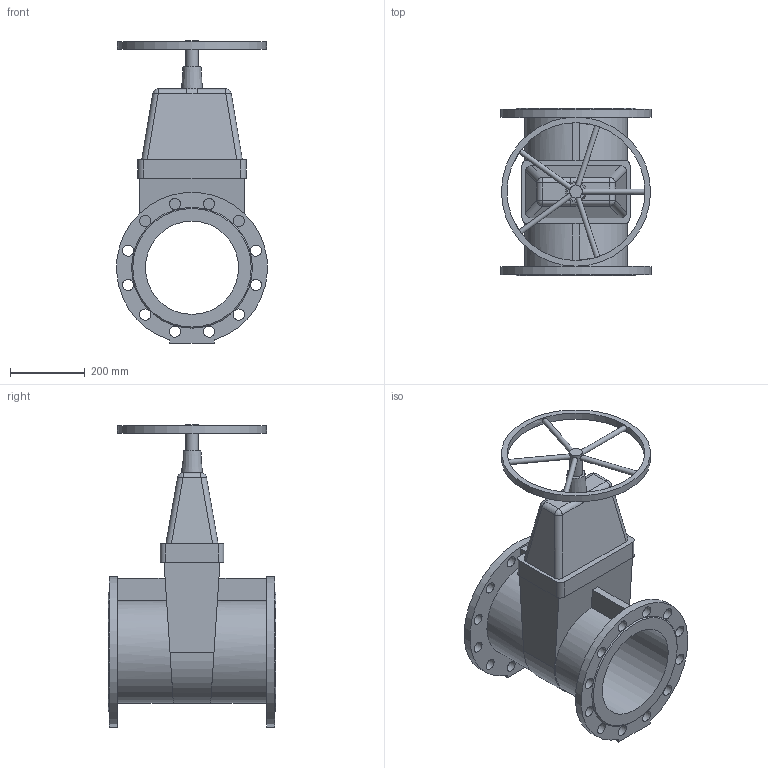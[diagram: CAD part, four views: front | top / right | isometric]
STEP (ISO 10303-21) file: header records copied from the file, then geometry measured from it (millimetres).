
FILE_DESCRIPTION(('STEP AP203'), '1');
FILE_NAME('Çàäâèæêà 47GV DN250 PN10_PN16_L450 ñ ìàõîâèêîì', '', ('UNSPECIFIED'), ('UNSPECIFIED'), 'ASCON STEP Converter 1.6', 'ASCON Math Kernel', '');
FILE_SCHEMA(('CONFIG_CONTROL_DESIGN'));
Length unit declared in the file: millimetre
Bounding box: 404.15 x 450 x 811.5 mm (x, y, z)
Volume: 21260459 mm3; surface area: 1526743.8 mm2
Topology: 1 solids, 1 shells, 118 faces, 301 edges, 192 vertices
Faces by surface type: cylinder 60, plane 49, bspline 6, cone 3
Full cylindrical faces by diameter (mm): 14 x5, 30 x24, 34 x1, 250 x1, 370 x1, 400 x1
Entity records: 5825 total; most frequent: CARTESIAN_POINT 2014, DIRECTION 570, ORIENTED_EDGE 520, EDGE_CURVE 260, EDGE_LOOP 226, AXIS2_PLACEMENT_3D 223, VERTEX_POINT 192, FACE_BOUND 156
